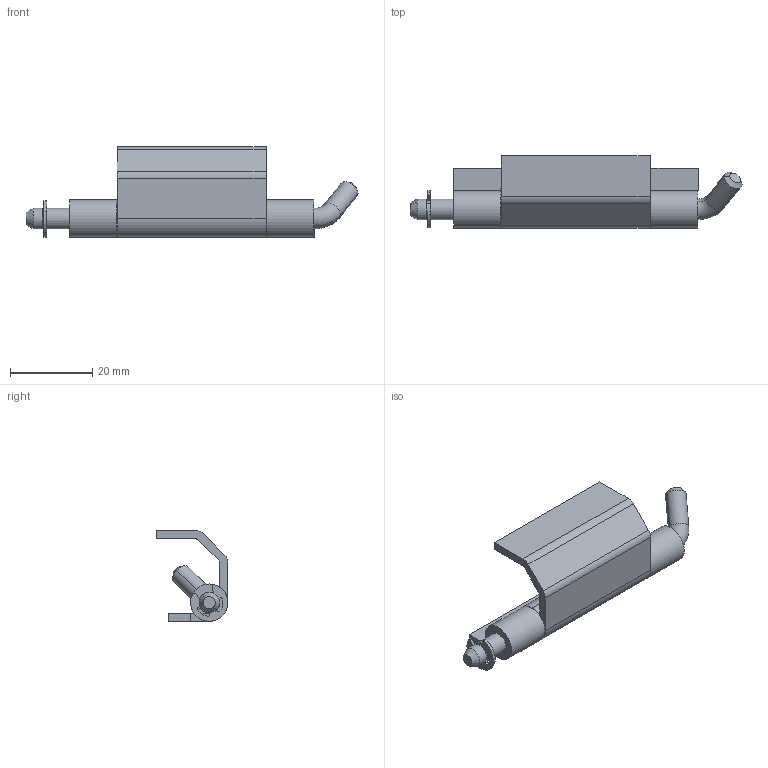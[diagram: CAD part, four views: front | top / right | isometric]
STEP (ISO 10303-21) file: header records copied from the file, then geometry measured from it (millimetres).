
FILE_DESCRIPTION (( 'STEP AP203' ), '1' );
FILE_NAME ('3.ST43.001.STEP', '2017-10-19T11:24:41', ( '' ), ( '' ), 'SwSTEP 2.0', 'SolidWorks 2015', '' );
FILE_SCHEMA (( 'CONFIG_CONTROL_DESIGN' ));
Length unit declared in the file: millimetre
Products named in the file (5): DIN 6799 - 4_A2; 3.ST4.001.03_A; 3.ST43.001.02_A; 3.ST43.001; 3.ST43.001.01_A
Assembly tree (4 placements, depth 2):
  3.ST43.001
    3.ST43.001.01_A
    3.ST43.001.02_A
    3.ST4.001.03_A
    DIN 6799 - 4_A2
Bounding box: 80.76 x 17.5 x 22.05 mm (x, y, z)
Volume: 6799.8 mm3; surface area: 7374 mm2
Topology: 4 solids, 4 shells, 83 faces, 211 edges, 138 vertices
Faces by surface type: cylinder 41, plane 36, cone 4, torus 2
Entity records: 3052 total; most frequent: DIRECTION 479, CARTESIAN_POINT 439, ORIENTED_EDGE 422, EDGE_CURVE 211, AXIS2_PLACEMENT_3D 178, VERTEX_POINT 138, VECTOR 123, LINE 123
